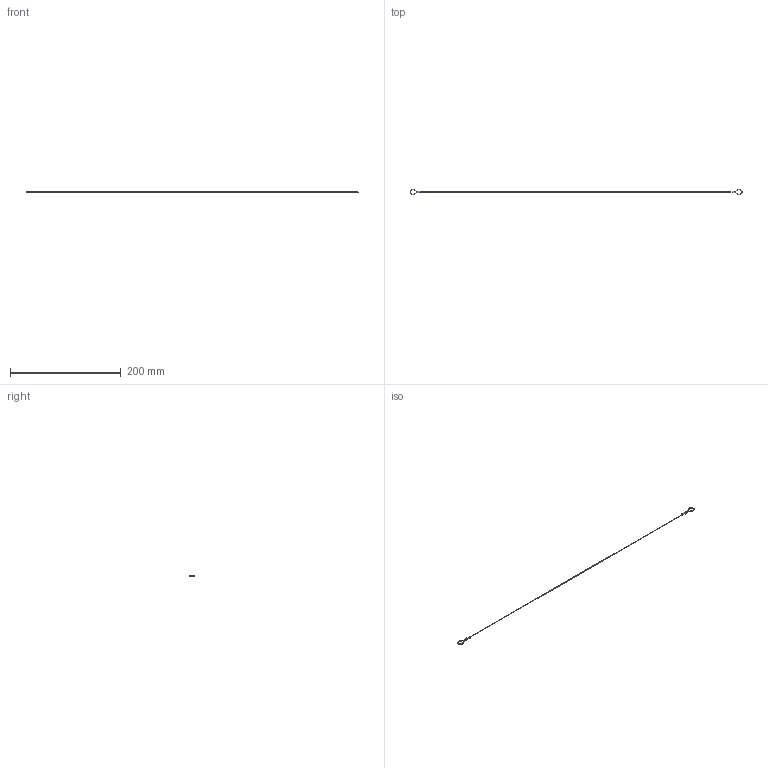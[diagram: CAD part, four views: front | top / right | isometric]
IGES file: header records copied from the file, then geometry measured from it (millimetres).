
Start section:  PTC IGES file: EB-935_9.igs
Global section: file name: EB-935_9.igs; native system: Creo Parametric by Parametric Technology Corporation; preprocessor: 2012360; author: xeon_1; organization: Unknown; date: 20130808.093633; units: millimetre
Bounding box: 599.96 x 10.11 x 2.5 mm (x, y, z)
Volume: 329.5 mm3; surface area: 1801.8 mm2
Topology: 1 solids, 1 shells, 26 faces, 66 edges, 38 vertices
Faces by surface type: revolution 14, bspline 12
